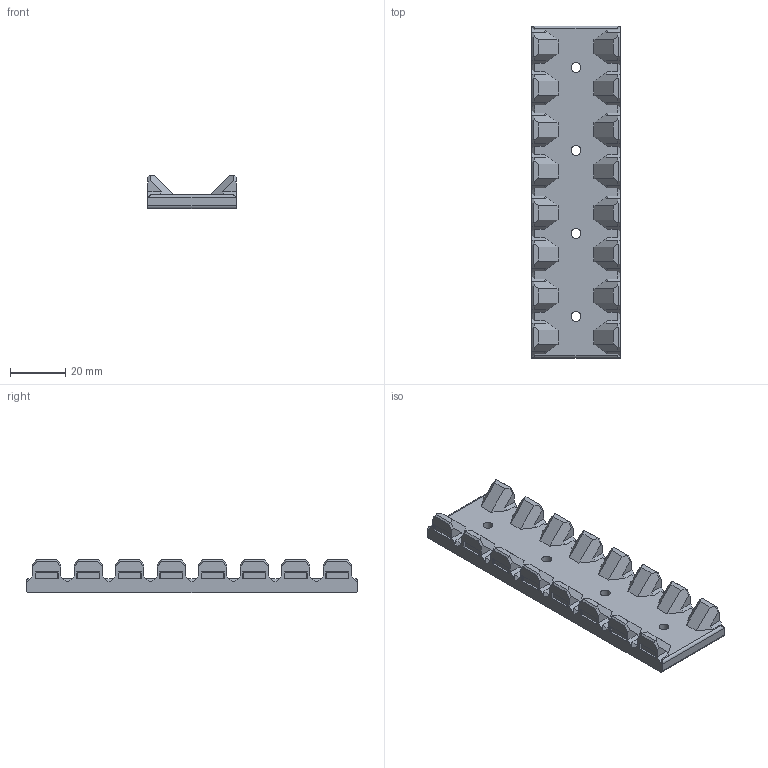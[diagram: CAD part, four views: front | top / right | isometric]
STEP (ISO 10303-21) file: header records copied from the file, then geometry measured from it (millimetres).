
FILE_DESCRIPTION(/* description */ (''),/* implementation_level */ '2;1');
FILE_NAME(/* name */ 'Stright_Extended (120mm).step',/* time_stamp */ '2024-10-20T22:59:58+02:00',/* author */ (''),/* organization */ (''),/* preprocessor_version */ 'ST-DEVELOPER v20',/* originating_system */ 'Autodesk Translation Framework v13.20.0.188',/* authorisation */ '');
FILE_SCHEMA (('AUTOMOTIVE_DESIGN { 1 0 10303 214 3 1 1 }'));
Length unit declared in the file: millimetre
Products named in the file (1): Stright_Cable_Guide
Bounding box: 32 x 120 x 12 mm (x, y, z)
Volume: 19021.8 mm3; surface area: 12395.2 mm2
Topology: 1 solids, 1 shells, 540 faces, 1390 edges, 876 vertices
Faces by surface type: plane 376, cylinder 80, sphere 48, bspline 16, cone 12, torus 8
Full cylindrical faces by diameter (mm): 3.6 x4
Entity records: 16438 total; most frequent: CARTESIAN_POINT 3255, ORIENTED_EDGE 2780, DIRECTION 2612, EDGE_CURVE 1390, LINE 1122, VECTOR 1122, VERTEX_POINT 876, AXIS2_PLACEMENT_3D 745
